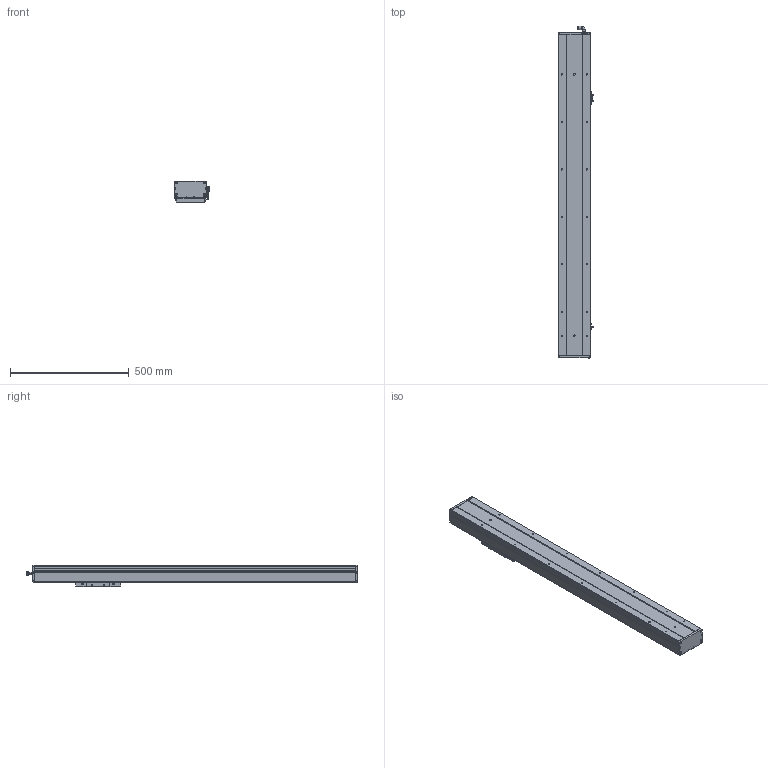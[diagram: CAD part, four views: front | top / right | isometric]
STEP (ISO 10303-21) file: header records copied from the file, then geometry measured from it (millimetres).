
FILE_DESCRIPTION (( 'STEP AP203' ), '1' );
FILE_NAME ('19.STEP', '2020-11-02T11:44:51', ( '' ), ( '' ), 'SwSTEP 2.0', 'SolidWorks 2016', '' );
FILE_SCHEMA (( 'CONFIG_CONTROL_DESIGN' ));
Length unit declared in the file: millimetre
Products named in the file (9): BCH14-M-09; BCH14-M-01; BCH14-M-菁釱; 19; BCH14-M-08; BCH14-M-HZ; BCH14-M-04; BCH14-M-10; BCH14-M-03
Assembly tree (11 placements, depth 2):
  19
    BCH14-M-菁釱
    BCH14-M-01
    BCH14-M-03  x2
    BCH14-M-04  x3
    BCH14-M-08
    BCH14-M-HZ
    BCH14-M-09
    BCH14-M-10
Bounding box: 148.7 x 1397.93 x 91 mm (x, y, z)
Volume: 6495434.2 mm3; surface area: 1225464.3 mm2
Topology: 19 solids, 19 shells, 1235 faces, 3337 edges, 2106 vertices
Faces by surface type: plane 724, cylinder 371, cone 118, bspline 8, sphere 8, torus 6
Entity records: 31961 total; most frequent: CARTESIAN_POINT 6404, DIRECTION 5116, ORIENTED_EDGE 5114, EDGE_CURVE 2557, AXIS2_PLACEMENT_3D 1744, VERTEX_POINT 1654, LINE 1628, VECTOR 1628
